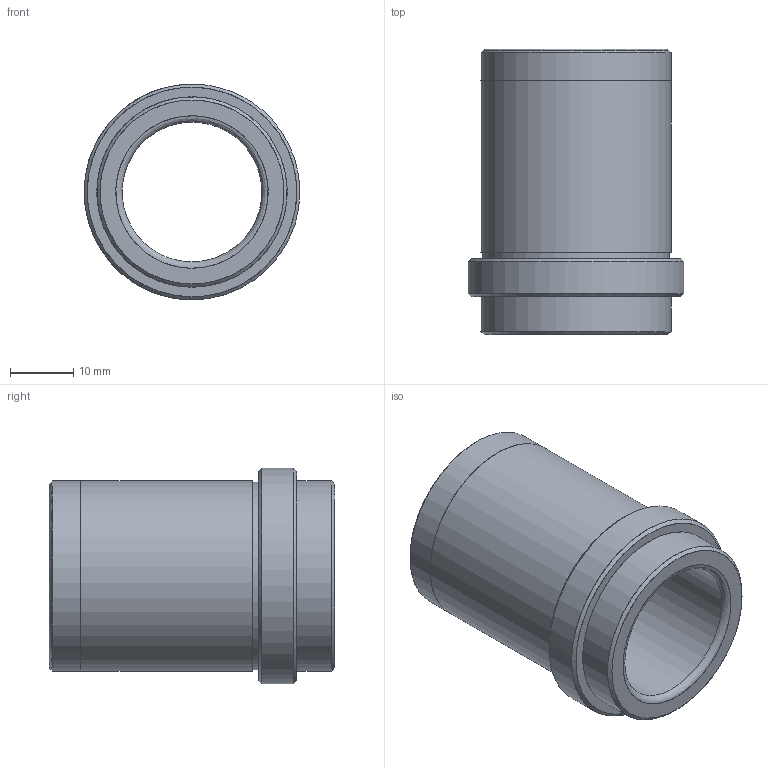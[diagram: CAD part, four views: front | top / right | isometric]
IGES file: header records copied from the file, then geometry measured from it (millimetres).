
Start section: Missler Software BP 521, 31674 Labege Cedex, France Tel   : +33 (0)5 61 00 03 00 Fax   : +33 (0)5 61 00 03 03 Email : sup.topsolid@topsolid.com
Global section: file name: C:\Documents and Settings\EXPER\Desktop\Cuma\24 03 2009\D28\D28_16X33.igs; native system: TopSolid v605250 Missler Software; preprocessor: IGES preprocessor v100000; date: 030102.054531; units: millimetre
Bounding box: 34 x 45 x 34 mm (x, y, z)
Surface area: 8359.8 mm2 (no closed solid volume)
Topology: 0 solids, 0 shells, 19 faces, 429 edges, 418 vertices
Faces by surface type: bspline 19
